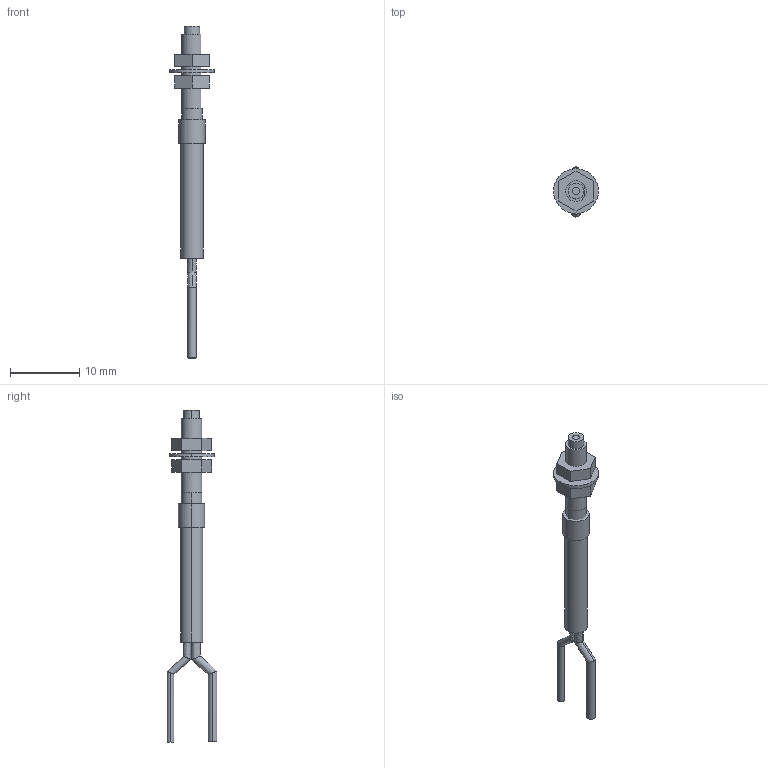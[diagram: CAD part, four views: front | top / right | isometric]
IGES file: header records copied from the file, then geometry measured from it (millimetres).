
Start section: SolidWorks IGES FILE using analytic representation for surfaces
Global section: file name: C:\Documents and Settings\yk0651\デスクトップ\3D_catalog_050904\0_IGES\FD-G6.IGS; native system: SolidWorks 2004 by SolidWorks Corporation; preprocessor: Version 5.3; author: yk0651; date: 050904.183455; units: millimetre
Bounding box: 6.5 x 7.23 x 48.07 mm (x, y, z)
Volume: 380.5 mm3; surface area: 743.1 mm2
Topology: 6 solids, 6 shells, 61 faces, 128 edges, 84 vertices
Faces by surface type: revolution 31, plane 30
